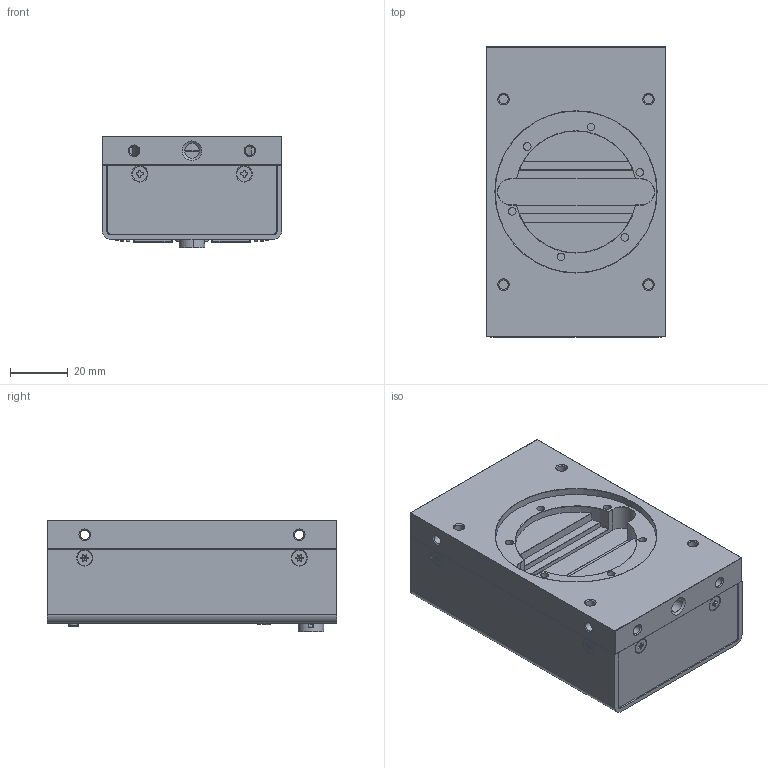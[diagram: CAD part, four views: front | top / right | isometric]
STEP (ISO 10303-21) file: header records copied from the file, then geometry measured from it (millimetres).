
FILE_DESCRIPTION (( 'STEP AP203' ), '1' );
FILE_NAME ('XCM4085TLCT6 (mount-less).STEP', '2021-05-21T06:22:55', ( '' ), ( '' ), 'SwSTEP 2.0', 'SolidWorks 2020', '' );
FILE_SCHEMA (( 'CONFIG_CONTROL_DESIGN' ));
Length unit declared in the file: millimetre
Products named in the file (1): XCM4085TLCT6 (mount-less)
Bounding box: 62 x 100 x 38.45 mm (x, y, z)
Surface area: 34099.5 mm2 (no closed solid volume)
Topology: 0 solids, 35 shells, 733 faces, 2333 edges, 1625 vertices
Faces by surface type: plane 476, cylinder 185, cone 51, bspline 17, torus 4
Full cylindrical faces by diameter (mm): 0.762 x4, 0.8 x6, 1.6 x4, 2 x4, 2.6 x6, 3.2 x1, 3.25 x12, 3.4 x1, 3.7 x4, 5.08 x2, 5.2 x8, 5.5 x2, 7 x2, 8.85 x1, 12 x1, 55.8 x1
Entity records: 25203 total; most frequent: CARTESIAN_POINT 5298, DIRECTION 4058, ORIENTED_EDGE 3695, EDGE_CURVE 2215, VERTEX_POINT 1594, VECTOR 1546, LINE 1546, AXIS2_PLACEMENT_3D 1256
